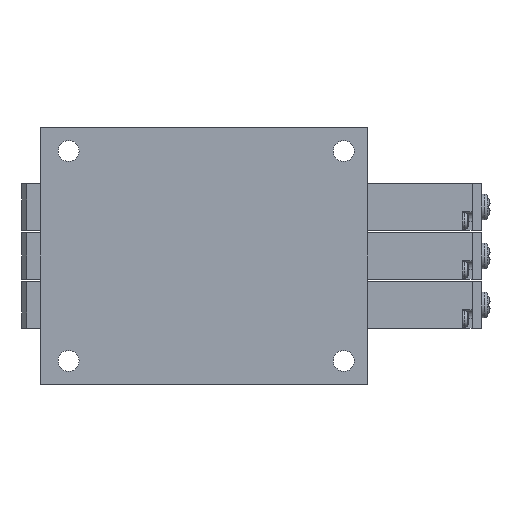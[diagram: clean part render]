
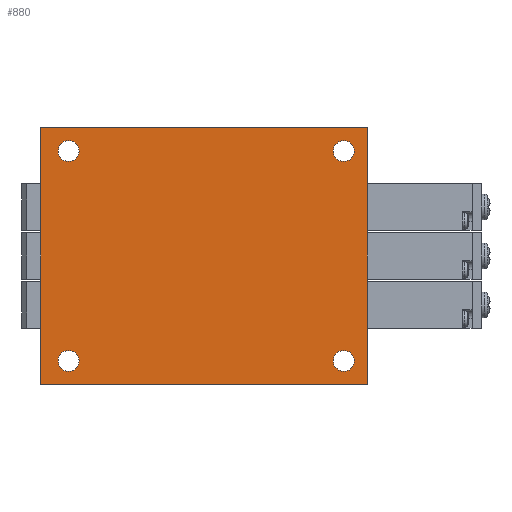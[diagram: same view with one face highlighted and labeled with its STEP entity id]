
A CAD part, front view. The second image highlights one B-rep face of the part: STEP entity #880.
In plain terms, the highlighted planar face has unit normal (0, -1, 0).
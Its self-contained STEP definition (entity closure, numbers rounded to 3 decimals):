
#880=ADVANCED_FACE('',(#1787,#1788,#1789,#1790,#1791),#1792,.F.);
#1787=FACE_OUTER_BOUND('',#2701,.T.);
#1788=FACE_BOUND('',#2702,.T.);
#1789=FACE_BOUND('',#2703,.T.);
#1790=FACE_BOUND('',#2704,.T.);
#1791=FACE_BOUND('',#2705,.T.);
#1792=PLANE('',#2706);
#2701=EDGE_LOOP('',(#5912,#5913,#5914,#5915));
#2702=EDGE_LOOP('',(#5916));
#2703=EDGE_LOOP('',(#5917));
#2704=EDGE_LOOP('',(#5918));
#2705=EDGE_LOOP('',(#5919));
#2706=AXIS2_PLACEMENT_3D('',#5920,#5921,#5922);
#5912=ORIENTED_EDGE('',*,*,#6941,.T.);
#5913=ORIENTED_EDGE('',*,*,#6942,.F.);
#5914=ORIENTED_EDGE('',*,*,#6928,.F.);
#5915=ORIENTED_EDGE('',*,*,#6921,.T.);
#5916=ORIENTED_EDGE('',*,*,#6927,.F.);
#5917=ORIENTED_EDGE('',*,*,#6939,.F.);
#5918=ORIENTED_EDGE('',*,*,#6943,.F.);
#5919=ORIENTED_EDGE('',*,*,#6937,.F.);
#5920=CARTESIAN_POINT('',(0.0,0.0,27.5));
#5921=DIRECTION('',(-0.0,1.0,0.0));
#5922=DIRECTION('',(1.0,0.0,0.0));
#6921=EDGE_CURVE('',#8606,#8604,#8607,.T.);
#6927=EDGE_CURVE('',#8617,#8617,#8618,.T.);
#6928=EDGE_CURVE('',#8606,#8619,#8620,.T.);
#6937=EDGE_CURVE('',#8636,#8636,#8637,.T.);
#6939=EDGE_CURVE('',#8640,#8640,#8641,.T.);
#6941=EDGE_CURVE('',#8604,#8642,#8644,.T.);
#6942=EDGE_CURVE('',#8619,#8642,#8645,.T.);
#6943=EDGE_CURVE('',#8646,#8646,#8647,.T.);
#8604=VERTEX_POINT('',#11384);
#8606=VERTEX_POINT('',#11387);
#8607=LINE('',#11388,#11389);
#8617=VERTEX_POINT('',#11400);
#8618=CIRCLE('',#11401,2.25);
#8619=VERTEX_POINT('',#11402);
#8620=LINE('',#11403,#11404);
#8636=VERTEX_POINT('',#11421);
#8637=CIRCLE('',#11422,2.25);
#8640=VERTEX_POINT('',#11425);
#8641=CIRCLE('',#11426,2.25);
#8642=VERTEX_POINT('',#11427);
#8644=LINE('',#11430,#11431);
#8645=LINE('',#11432,#11433);
#8646=VERTEX_POINT('',#11434);
#8647=CIRCLE('',#11435,2.25);
#11384=CARTESIAN_POINT('',(0.0,0.0,-27.5));
#11387=CARTESIAN_POINT('',(0.0,0.0,27.5));
#11388=CARTESIAN_POINT('',(0.0,0.0,27.5));
#11389=VECTOR('',#12763,1.0);
#11400=CARTESIAN_POINT('',(6.0,0.0,24.75));
#11401=AXIS2_PLACEMENT_3D('',#12777,#12778,#12779);
#11402=CARTESIAN_POINT('',(70.0,0.0,27.5));
#11403=CARTESIAN_POINT('',(0.0,0.0,27.5));
#11404=VECTOR('',#12780,1.0);
#11421=CARTESIAN_POINT('',(65.0,0.0,24.75));
#11422=AXIS2_PLACEMENT_3D('',#12803,#12804,#12805);
#11425=CARTESIAN_POINT('',(65.0,0.0,-20.25));
#11426=AXIS2_PLACEMENT_3D('',#12809,#12810,#12811);
#11427=CARTESIAN_POINT('',(70.0,0.0,-27.5));
#11430=CARTESIAN_POINT('',(0.0,0.0,-27.5));
#11431=VECTOR('',#12813,1.0);
#11432=CARTESIAN_POINT('',(70.0,0.0,27.5));
#11433=VECTOR('',#12814,1.0);
#11434=CARTESIAN_POINT('',(6.0,0.0,-20.25));
#11435=AXIS2_PLACEMENT_3D('',#12815,#12816,#12817);
#12763=DIRECTION('',(0.0,0.0,-1.0));
#12777=CARTESIAN_POINT('',(6.0,0.0,22.5));
#12778=DIRECTION('',(0.0,-1.0,0.0));
#12779=DIRECTION('',(0.0,0.0,1.0));
#12780=DIRECTION('',(1.0,0.0,0.0));
#12803=CARTESIAN_POINT('',(65.0,0.0,22.5));
#12804=DIRECTION('',(0.0,-1.0,0.0));
#12805=DIRECTION('',(0.0,0.0,1.0));
#12809=CARTESIAN_POINT('',(65.0,0.0,-22.5));
#12810=DIRECTION('',(0.0,-1.0,0.0));
#12811=DIRECTION('',(0.0,0.0,1.0));
#12813=DIRECTION('',(1.0,0.0,0.0));
#12814=DIRECTION('',(0.0,0.0,-1.0));
#12815=CARTESIAN_POINT('',(6.0,0.0,-22.5));
#12816=DIRECTION('',(0.0,-1.0,0.0));
#12817=DIRECTION('',(0.0,0.0,1.0));
